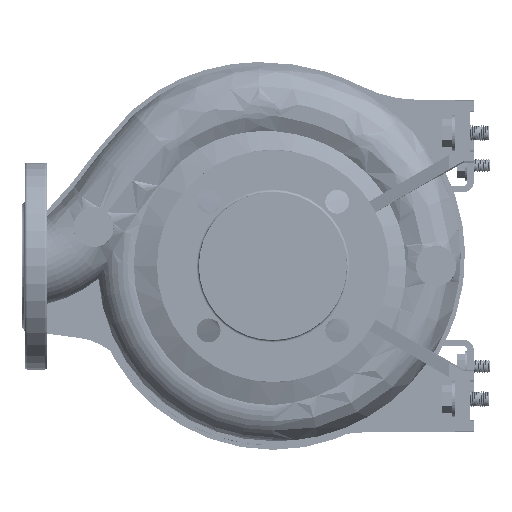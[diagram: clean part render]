
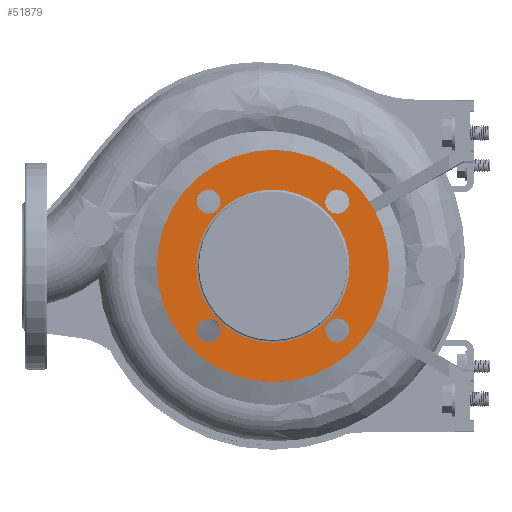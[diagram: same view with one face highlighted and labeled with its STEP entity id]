
A CAD part, left-side view. The second image highlights one B-rep face of the part: STEP entity #51879.
In plain terms, the highlighted planar face has unit normal (-1, 0, 0).
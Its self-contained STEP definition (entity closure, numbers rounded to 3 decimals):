
#2032 = DIRECTION ( 'NONE',  ( 0., 1., 0. ) ) ;
#2181 = VERTEX_POINT ( 'NONE', #54217 ) ;
#2596 = CARTESIAN_POINT ( 'NONE',  ( -98., -61., 0. ) ) ;
#2970 = FACE_BOUND ( 'NONE', #24951, .T. ) ;
#3097 = DIRECTION ( 'NONE',  ( -1., 0., 0. ) ) ;
#6079 = DIRECTION ( 'NONE',  ( 0., -1., 0. ) ) ;
#8697 = AXIS2_PLACEMENT_3D ( 'NONE', #65387, #36200, #6079 ) ;
#13915 = CIRCLE ( 'NONE', #37949, 92.5 ) ;
#14166 = EDGE_CURVE ( 'NONE', #152520, #106624, #29523, .T. ) ;
#15125 = ORIENTED_EDGE ( 'NONE', *, *, #153273, .F. ) ;
#15867 = EDGE_CURVE ( 'NONE', #152179, #38698, #134743, .T. ) ;
#16425 = DIRECTION ( 'NONE',  ( -1., 0., 0. ) ) ;
#16788 = CIRCLE ( 'NONE', #122003, 9.5 ) ;
#18030 = CARTESIAN_POINT ( 'NONE',  ( -98., 61., 0. ) ) ;
#18816 = CARTESIAN_POINT ( 'NONE',  ( -98., -51.265, -51.265 ) ) ;
#20370 = AXIS2_PLACEMENT_3D ( 'NONE', #138396, #180801, #40480 ) ;
#21576 = CARTESIAN_POINT ( 'NONE',  ( -98., 51.265, 51.265 ) ) ;
#24628 = AXIS2_PLACEMENT_3D ( 'NONE', #157693, #16425, #57888 ) ;
#24951 = EDGE_LOOP ( 'NONE', ( #106560, #56189 ) ) ;
#28171 = EDGE_CURVE ( 'NONE', #168356, #119227, #168381, .T. ) ;
#29523 = CIRCLE ( 'NONE', #134722, 9.5 ) ;
#29997 = DIRECTION ( 'NONE',  ( 0., -1., 0. ) ) ;
#31929 = CIRCLE ( 'NONE', #107046, 9.5 ) ;
#33819 = CARTESIAN_POINT ( 'NONE',  ( -98., -41.765, -51.265 ) ) ;
#34786 = DIRECTION ( 'NONE',  ( 0., -1., 0. ) ) ;
#36200 = DIRECTION ( 'NONE',  ( -1., 0., 0. ) ) ;
#36570 = CARTESIAN_POINT ( 'NONE',  ( -98., -51.265, 51.265 ) ) ;
#37949 = AXIS2_PLACEMENT_3D ( 'NONE', #40969, #56021, #140762 ) ;
#38110 = ORIENTED_EDGE ( 'NONE', *, *, #14166, .F. ) ;
#38698 = VERTEX_POINT ( 'NONE', #134246 ) ;
#38762 = CARTESIAN_POINT ( 'NONE',  ( -98., 60.765, 51.265 ) ) ;
#40480 = DIRECTION ( 'NONE',  ( 0., -1., 0. ) ) ;
#40969 = CARTESIAN_POINT ( 'NONE',  ( -98., 0., 0. ) ) ;
#44854 = DIRECTION ( 'NONE',  ( 0., 0., -1. ) ) ;
#44915 = DIRECTION ( 'NONE',  ( -1., 0., 0. ) ) ;
#45022 = CIRCLE ( 'NONE', #69069, 9.5 ) ;
#47612 = DIRECTION ( 'NONE',  ( -1., 0., 0. ) ) ;
#51879 = ADVANCED_FACE ( 'NONE', ( #146063, #88666, #2970, #133803, #131030, #160214 ), #162954, .F. ) ;
#54217 = CARTESIAN_POINT ( 'NONE',  ( -98., 41.765, -51.265 ) ) ;
#54890 = ORIENTED_EDGE ( 'NONE', *, *, #170294, .F. ) ;
#56021 = DIRECTION ( 'NONE',  ( -1., 0., 0. ) ) ;
#56189 = ORIENTED_EDGE ( 'NONE', *, *, #58605, .F. ) ;
#57888 = DIRECTION ( 'NONE',  ( 0., -1., 0. ) ) ;
#58605 = EDGE_CURVE ( 'NONE', #107815, #2181, #31929, .T. ) ;
#60746 = CARTESIAN_POINT ( 'NONE',  ( -98., 41.765, 51.265 ) ) ;
#65387 = CARTESIAN_POINT ( 'NONE',  ( -98., 51.265, 51.265 ) ) ;
#68313 = ORIENTED_EDGE ( 'NONE', *, *, #126497, .T. ) ;
#69069 = AXIS2_PLACEMENT_3D ( 'NONE', #18816, #88538, #119535 ) ;
#71925 = CARTESIAN_POINT ( 'NONE',  ( -98., 51.265, -51.265 ) ) ;
#72698 = EDGE_LOOP ( 'NONE', ( #148309, #68313 ) ) ;
#74521 = EDGE_CURVE ( 'NONE', #134358, #123288, #160728, .T. ) ;
#75142 = AXIS2_PLACEMENT_3D ( 'NONE', #109521, #125472, #95393 ) ;
#75877 = ORIENTED_EDGE ( 'NONE', *, *, #99816, .F. ) ;
#75933 = EDGE_CURVE ( 'NONE', #2181, #107815, #16788, .T. ) ;
#76081 = CARTESIAN_POINT ( 'NONE',  ( -98., 0., 0. ) ) ;
#76459 = AXIS2_PLACEMENT_3D ( 'NONE', #18030, #102799, #2032 ) ;
#81362 = CARTESIAN_POINT ( 'NONE',  ( -98., -92.5, 0. ) ) ;
#83432 = CARTESIAN_POINT ( 'NONE',  ( -98., -41.765, 51.265 ) ) ;
#88538 = DIRECTION ( 'NONE',  ( -1., 0., 0. ) ) ;
#88666 = FACE_BOUND ( 'NONE', #152275, .T. ) ;
#90954 = DIRECTION ( 'NONE',  ( 0., 0., 1. ) ) ;
#94008 = DIRECTION ( 'NONE',  ( 0., 0., -1. ) ) ;
#94937 = DIRECTION ( 'NONE',  ( -1., 0., 0. ) ) ;
#95393 = DIRECTION ( 'NONE',  ( 0., 1., 0. ) ) ;
#99816 = EDGE_CURVE ( 'NONE', #123288, #134358, #99941, .T. ) ;
#99941 = CIRCLE ( 'NONE', #24628, 61. ) ;
#102273 = CARTESIAN_POINT ( 'NONE',  ( -98., -51.265, 51.265 ) ) ;
#102799 = DIRECTION ( 'NONE',  ( 1., 0., 0. ) ) ;
#106560 = ORIENTED_EDGE ( 'NONE', *, *, #75933, .F. ) ;
#106624 = VERTEX_POINT ( 'NONE', #60746 ) ;
#107046 = AXIS2_PLACEMENT_3D ( 'NONE', #71925, #3097, #158500 ) ;
#107815 = VERTEX_POINT ( 'NONE', #149906 ) ;
#109521 = CARTESIAN_POINT ( 'NONE',  ( -98., -51.265, -51.265 ) ) ;
#111125 = EDGE_LOOP ( 'NONE', ( #135216, #54890 ) ) ;
#116446 = CARTESIAN_POINT ( 'NONE',  ( -98., 51.265, -51.265 ) ) ;
#119227 = VERTEX_POINT ( 'NONE', #124901 ) ;
#119535 = DIRECTION ( 'NONE',  ( 0., 1., 0. ) ) ;
#120438 = CARTESIAN_POINT ( 'NONE',  ( -98., -60.765, 51.265 ) ) ;
#120468 = DIRECTION ( 'NONE',  ( -1., 0., 0. ) ) ;
#122003 = AXIS2_PLACEMENT_3D ( 'NONE', #116446, #44915, #90954 ) ;
#123071 = VERTEX_POINT ( 'NONE', #120438 ) ;
#123288 = VERTEX_POINT ( 'NONE', #2596 ) ;
#124394 = ORIENTED_EDGE ( 'NONE', *, *, #74521, .F. ) ;
#124901 = CARTESIAN_POINT ( 'NONE',  ( -98., -60.765, -51.265 ) ) ;
#125472 = DIRECTION ( 'NONE',  ( -1., 0., 0. ) ) ;
#126497 = EDGE_CURVE ( 'NONE', #38698, #152179, #13915, .T. ) ;
#131030 = FACE_BOUND ( 'NONE', #143139, .T. ) ;
#133803 = FACE_BOUND ( 'NONE', #181342, .T. ) ;
#134246 = CARTESIAN_POINT ( 'NONE',  ( -98., 92.5, 0. ) ) ;
#134358 = VERTEX_POINT ( 'NONE', #179126 ) ;
#134722 = AXIS2_PLACEMENT_3D ( 'NONE', #21576, #120468, #34786 ) ;
#134743 = CIRCLE ( 'NONE', #20370, 92.5 ) ;
#135216 = ORIENTED_EDGE ( 'NONE', *, *, #136633, .F. ) ;
#136633 = EDGE_CURVE ( 'NONE', #123071, #138048, #178116, .T. ) ;
#137989 = CIRCLE ( 'NONE', #8697, 9.5 ) ;
#138048 = VERTEX_POINT ( 'NONE', #83432 ) ;
#138396 = CARTESIAN_POINT ( 'NONE',  ( -98., 0., 0. ) ) ;
#140762 = DIRECTION ( 'NONE',  ( 0., -1., 0. ) ) ;
#143139 = EDGE_LOOP ( 'NONE', ( #75877, #124394 ) ) ;
#146063 = FACE_BOUND ( 'NONE', #111125, .T. ) ;
#148309 = ORIENTED_EDGE ( 'NONE', *, *, #15867, .T. ) ;
#149594 = AXIS2_PLACEMENT_3D ( 'NONE', #36570, #94937, #94008 ) ;
#149906 = CARTESIAN_POINT ( 'NONE',  ( -98., 60.765, -51.265 ) ) ;
#151704 = AXIS2_PLACEMENT_3D ( 'NONE', #76081, #158974, #29997 ) ;
#151952 = EDGE_CURVE ( 'NONE', #106624, #152520, #137989, .T. ) ;
#152179 = VERTEX_POINT ( 'NONE', #81362 ) ;
#152275 = EDGE_LOOP ( 'NONE', ( #15125, #174997 ) ) ;
#152520 = VERTEX_POINT ( 'NONE', #38762 ) ;
#153273 = EDGE_CURVE ( 'NONE', #119227, #168356, #45022, .T. ) ;
#157693 = CARTESIAN_POINT ( 'NONE',  ( -98., 0., 0. ) ) ;
#158500 = DIRECTION ( 'NONE',  ( 0., 0., 1. ) ) ;
#158974 = DIRECTION ( 'NONE',  ( -1., 0., 0. ) ) ;
#160214 = FACE_OUTER_BOUND ( 'NONE', #72698, .T. ) ;
#160728 = CIRCLE ( 'NONE', #151704, 61. ) ;
#162954 = PLANE ( 'NONE',  #76459 ) ;
#163168 = AXIS2_PLACEMENT_3D ( 'NONE', #102273, #47612, #44854 ) ;
#167052 = ORIENTED_EDGE ( 'NONE', *, *, #151952, .F. ) ;
#168356 = VERTEX_POINT ( 'NONE', #33819 ) ;
#168381 = CIRCLE ( 'NONE', #75142, 9.5 ) ;
#170294 = EDGE_CURVE ( 'NONE', #138048, #123071, #182828, .T. ) ;
#174997 = ORIENTED_EDGE ( 'NONE', *, *, #28171, .F. ) ;
#178116 = CIRCLE ( 'NONE', #163168, 9.5 ) ;
#179126 = CARTESIAN_POINT ( 'NONE',  ( -98., 61., 0. ) ) ;
#180801 = DIRECTION ( 'NONE',  ( -1., 0., 0. ) ) ;
#181342 = EDGE_LOOP ( 'NONE', ( #167052, #38110 ) ) ;
#182828 = CIRCLE ( 'NONE', #149594, 9.5 ) ;
